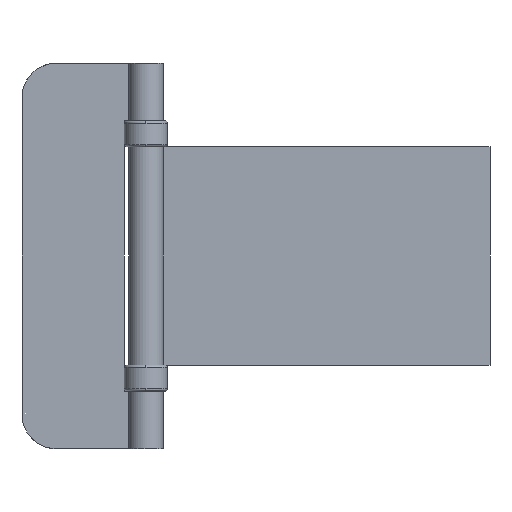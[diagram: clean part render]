
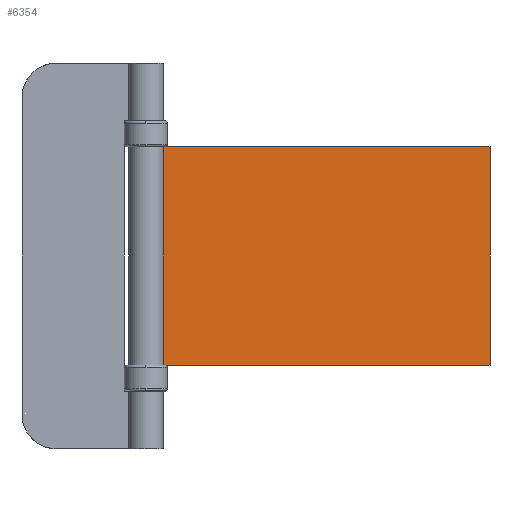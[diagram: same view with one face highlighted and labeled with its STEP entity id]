
A CAD part, front view. The second image highlights one B-rep face of the part: STEP entity #6354.
In plain terms, the highlighted planar face has unit normal (0, -1, 0).
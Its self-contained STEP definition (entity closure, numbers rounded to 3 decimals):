
#6255=CARTESIAN_POINT('',(0.,2.5,24.25));
#6256=VERTEX_POINT('',#6255);
#6264=CARTESIAN_POINT('',(0.0,2.5,87.75));
#6265=VERTEX_POINT('',#6264);
#6266=CARTESIAN_POINT('',(0.,2.5,24.25));
#6267=DIRECTION('',(0.0,0.0,1.0));
#6268=VECTOR('',#6267,63.5);
#6269=LINE('',#6266,#6268);
#6270=EDGE_CURVE('',#6256,#6265,#6269,.T.);
#6324=CARTESIAN_POINT('',(50.0,2.5,56.0));
#6325=DIRECTION('',(0.0,1.0,0.0));
#6326=DIRECTION('',(0.0,0.0,1.0));
#6327=AXIS2_PLACEMENT_3D('',#6324,#6325,#6326);
#6328=PLANE('',#6327);
#6329=ORIENTED_EDGE('',*,*,#6270,.F.);
#6330=CARTESIAN_POINT('',(100.0,2.5,24.25));
#6331=VERTEX_POINT('',#6330);
#6332=CARTESIAN_POINT('',(100.0,2.5,24.25));
#6333=DIRECTION('',(-1.0,0.0,0.0));
#6334=VECTOR('',#6333,100.);
#6335=LINE('',#6332,#6334);
#6336=EDGE_CURVE('',#6331,#6256,#6335,.T.);
#6337=ORIENTED_EDGE('',*,*,#6336,.F.);
#6338=CARTESIAN_POINT('',(100.0,2.5,87.75));
#6339=VERTEX_POINT('',#6338);
#6340=CARTESIAN_POINT('',(100.0,2.5,87.75));
#6341=DIRECTION('',(0.0,0.0,-1.0));
#6342=VECTOR('',#6341,63.5);
#6343=LINE('',#6340,#6342);
#6344=EDGE_CURVE('',#6339,#6331,#6343,.T.);
#6345=ORIENTED_EDGE('',*,*,#6344,.F.);
#6346=CARTESIAN_POINT('',(0.0,2.5,87.75));
#6347=DIRECTION('',(1.0,0.0,0.0));
#6348=VECTOR('',#6347,100.0);
#6349=LINE('',#6346,#6348);
#6350=EDGE_CURVE('',#6265,#6339,#6349,.T.);
#6351=ORIENTED_EDGE('',*,*,#6350,.F.);
#6352=EDGE_LOOP('',(#6329,#6337,#6345,#6351));
#6353=FACE_OUTER_BOUND('',#6352,.T.);
#6354=ADVANCED_FACE('',(#6353),#6328,.F.);
